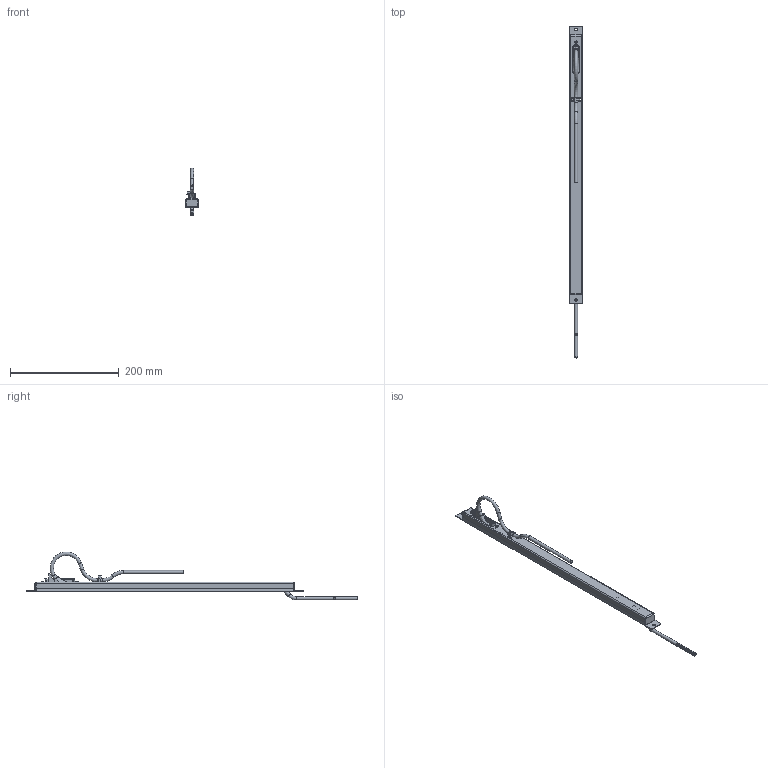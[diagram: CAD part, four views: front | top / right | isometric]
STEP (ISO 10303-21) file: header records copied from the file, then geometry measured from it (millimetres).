
FILE_DESCRIPTION(/* description */ (''),/* implementation_level */ '2;1');
FILE_NAME(/* name */ 'ZGL_2003824- Kabelbergang M 13 75.stp',/* time_stamp */ '2026-07-29T13:12:23+02:00',/* author */ ('lthom'),/* organization */ (''),/* preprocessor_version */ 'ST-DEVELOPER v20',/* originating_system */ 'Autodesk Inventor 2025',/* authorisation */ '');
FILE_SCHEMA (('AUTOMOTIVE_DESIGN { 1 0 10303 214 3 1 1 }'));
Products named in the file (17): 2003824- Kabelübergang M 13 75; 9200564-Buchse M 13 65 halbfertig ; 2003423- Buchsenleiste 12pol; 9100488- Buchse_umspritzt; 2003426- Halter 2x6 sw; 2003422- Feder 295 x 11; 2002727- Kabel LiF9Y11Y 12x0,25mm² gr (Buchsenseite Einbaukasten); 9200563-Stecker M 13 65 umspritzt ; 2003424- Stiftleiste 12pol; 9200531_Stecker_umspritzt; 2003421- Grundplatte; 9100373- Vorspritzling Stecker; 2002727- Kabel LiF9Y11Y 12x0,25mm² gr (M 13 65 Stecker); 2003650 Einbaukasten 511x24x17,5mm Lösbarer Kabelübergang M 1
3 65; 1101357- Kabelbinder 3,6x140 (M 13 65); 2003609- Endkopf M 13 65 gr; 2003608- Aufnahme M 13 65 gr
Assembly tree (17 placements, depth 3):
  2003824- Kabelübergang M 13 75
    9200564-Buchse M 13 65 halbfertig 
      2003423- Buchsenleiste 12pol
      9100488- Buchse_umspritzt
      2003426- Halter 2x6 sw
      2003422- Feder 295 x 11
      9100373- Vorspritzling Stecker
      2002727- Kabel LiF9Y11Y 12x0,25mm² gr (Buchsenseite Einbaukasten)
    9200563-Stecker M 13 65 umspritzt 
      2003424- Stiftleiste 12pol
      9200531_Stecker_umspritzt
      2003421- Grundplatte
      9100373- Vorspritzling Stecker
      2002727- Kabel LiF9Y11Y 12x0,25mm² gr (M 13 65 Stecker)
    2003650 Einbaukasten 511x24x17,5mm Lösbarer Kabelübergang M 1
3 65
    1101357- Kabelbinder 3,6x140 (M 13 65)
    2003609- Endkopf M 13 65 gr
    2003608- Aufnahme M 13 65 gr
Bounding box: 24 x 611.46 x 88.4 mm (x, y, z)
Volume: 103610.3 mm3; surface area: 136589.7 mm2
Topology: 28 solids, 28 shells, 3016 faces, 7365 edges, 4550 vertices
Faces by surface type: plane 1206, cylinder 1059, bspline 269, torus 211, sphere 158, cone 113
Full cylindrical faces by diameter (mm): 0.5 x24, 0.6 x36, 1.2 x120, 2 x26, 2.459 x2, 3.2 x3, 3.24 x1, 3.4 x1, 3.6 x1, 4.5 x2, 4.7 x2, 6 x5, 6.2 x10, 6.4 x2, 6.5 x1, 9.4 x4, 11 x1
Entity records: 110922 total; most frequent: CARTESIAN_POINT 41786, DIRECTION 14276, ORIENTED_EDGE 13956, EDGE_CURVE 6978, AXIS2_PLACEMENT_3D 5317, VERTEX_POINT 4296, LINE 3642, VECTOR 3642
